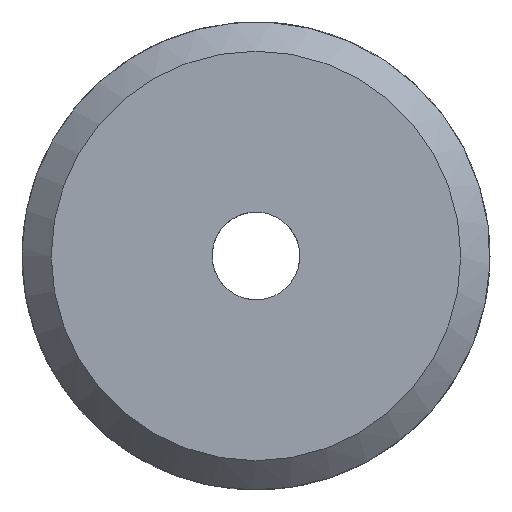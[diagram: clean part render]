
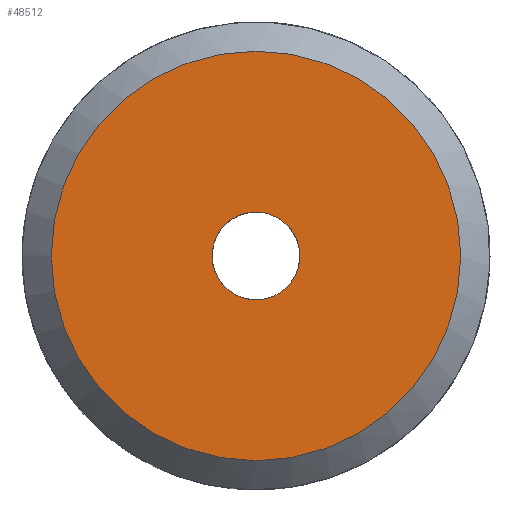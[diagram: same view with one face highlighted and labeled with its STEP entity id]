
A CAD part, left-side view. The second image highlights one B-rep face of the part: STEP entity #48512.
In plain terms, the highlighted planar face has unit normal (-1, 0, 0).
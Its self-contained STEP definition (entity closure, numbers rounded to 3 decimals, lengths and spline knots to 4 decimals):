
#14017=PLANE('',#47889);
#18087=ORIENTED_EDGE('',*,*,#19470,.F.);
#18088=ORIENTED_EDGE('',*,*,#20867,.F.);
#18090=CIRCLE('',#46997,3.5);
#18537=CIRCLE('',#47888,0.75);
#18539=VERTEX_POINT('',#23621);
#19468=VERTEX_POINT('',#46990);
#19470=EDGE_CURVE('',#18539,#18539,#18090,.T.);
#20867=EDGE_CURVE('',#19468,#19468,#18537,.T.);
#21344=EDGE_LOOP('',(#18087));
#21345=EDGE_LOOP('',(#18088));
#21822=FACE_BOUND('',#21344,.T.);
#21823=FACE_BOUND('',#21345,.T.);
#21828=DIRECTION('',(1.,0.,0.));
#21829=DIRECTION('',(0.,0.,-3.5));
#23610=DIRECTION('',(-1.,0.,0.));
#23611=DIRECTION('',(0.,-0.75,0.));
#23612=DIRECTION('',(-1.,0.,0.));
#23613=DIRECTION('',(0.,1.,0.));
#23621=CARTESIAN_POINT('',(44.0292,160.6927,-3.5));
#23622=CARTESIAN_POINT('',(44.0292,160.6927,0.));
#46990=CARTESIAN_POINT('',(44.0292,159.9427,0.));
#46991=CARTESIAN_POINT('',(44.0292,160.6927,0.));
#46992=CARTESIAN_POINT('',(44.0292,160.6927,-3.5));
#46997=AXIS2_PLACEMENT_3D('',#23622,#21828,#21829);
#47888=AXIS2_PLACEMENT_3D('',#46991,#23610,#23611);
#47889=AXIS2_PLACEMENT_3D('',#46992,#23612,#23613);
#48512=ADVANCED_FACE('',(#21822,#21823),#14017,.T.);
